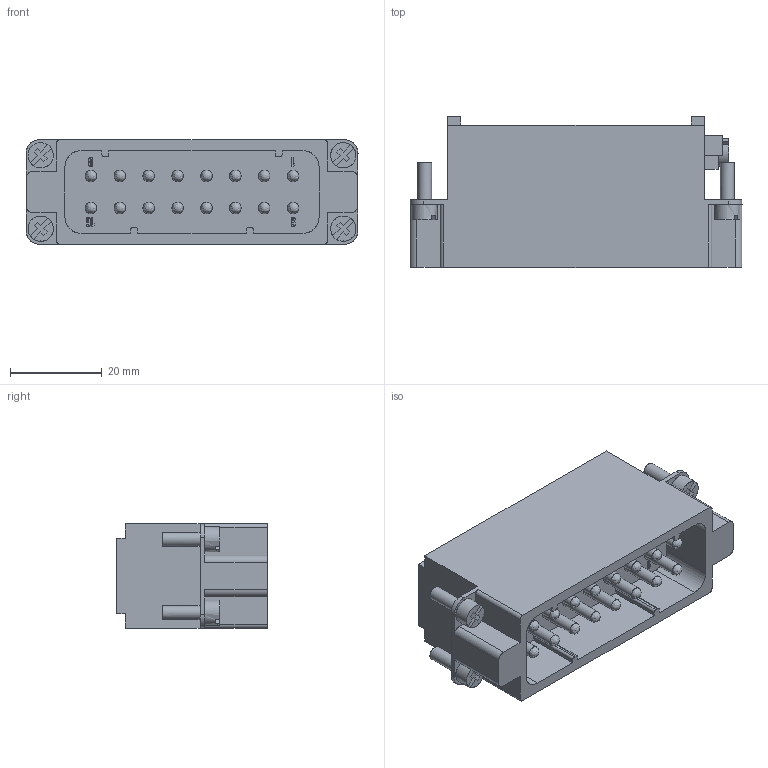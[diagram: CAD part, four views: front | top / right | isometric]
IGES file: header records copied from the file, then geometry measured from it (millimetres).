
Start section: VISI Layer Mapping Iges    VISI  0      LAYER0  1      WARNINGS
Global section: file name: G:\Produktkommunikation\Support\CD-Online-Katalog\3D Daten Produkte\15052012\E2702_16A.igs; native system: VISI 19.0; preprocessor: 2.0; author: nus; organization: Unknown; date: 20120515.150108; units: millimetre
Bounding box: 72.4 x 32.9 x 22.8 mm (x, y, z)
Surface area: 14430.3 mm2 (no closed solid volume)
Topology: 0 solids, 0 shells, 391 faces, 3366 edges, 3269 vertices
Faces by surface type: bspline 391
